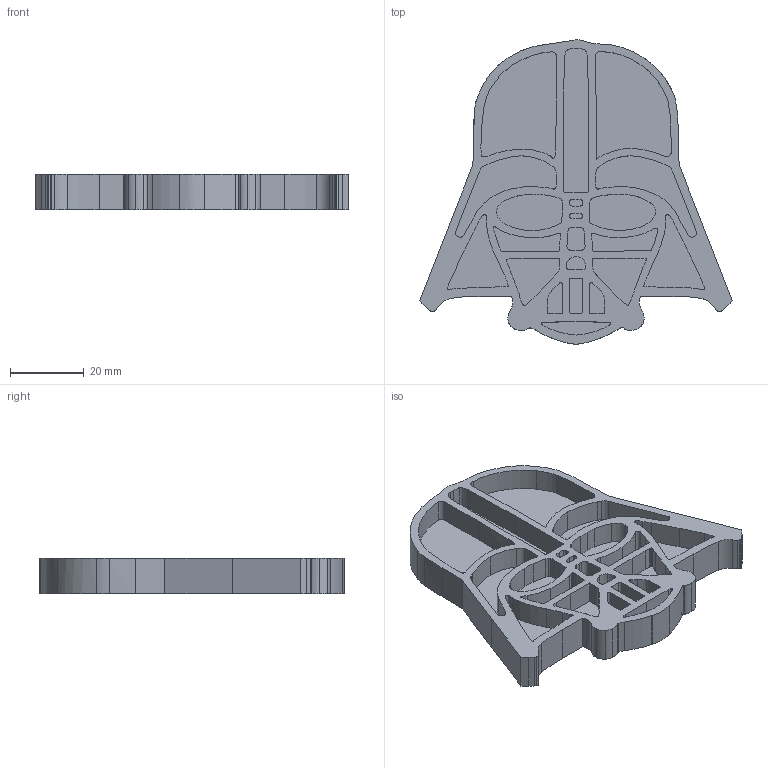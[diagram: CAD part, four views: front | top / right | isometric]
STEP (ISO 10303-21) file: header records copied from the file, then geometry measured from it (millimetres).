
FILE_DESCRIPTION(/* description */ (''),/* implementation_level */ '2;1');
FILE_NAME(/* name */ 'C:/Users/Jason/Desktop/Videos/Youtube Videos/To be published/Darth Vader- Tormach Project v4.step',/* time_stamp */ '2017-01-08T00:51:35-05:00',/* author */ (''),/* organization */ (''),/* preprocessor_version */ 'ST-DEVELOPER v16.5',/* originating_system */ 'Autodesk Translation Framework v5.2.0.2920',/* authorisation */ '');
FILE_SCHEMA (('AUTOMOTIVE_DESIGN { 1 0 10303 214 3 1 1 }'));
Length unit declared in the file: inch
Products named in the file (1): Darth Vader- Tormach Project v4
Bounding box: 84.68 x 82.48 x 9.55 mm (x, y, z)
Volume: 26098.7 mm3; surface area: 17864.5 mm2
Topology: 1 solids, 1 shells, 403 faces, 1140 edges, 760 vertices
Faces by surface type: bspline 296, plane 85, cylinder 22
Entity records: 13951 total; most frequent: CARTESIAN_POINT 5742, ORIENTED_EDGE 2280, EDGE_CURVE 1140, DIRECTION 1116, VERTEX_POINT 760, LINE 504, VECTOR 504, EDGE_LOOP 424
